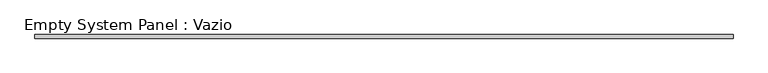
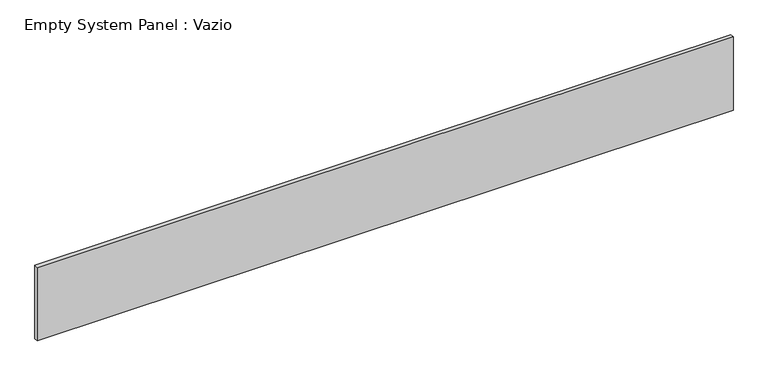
"""IFC4 building model written with IfcOpenShell, lengths in millimetres: plate geometry, Empty System Panel : Vazio."""

from ifc_helpers import new_model, si_unit, origin, origin_with_axes, place, context, project, spatial, polyline, outline, extrude, source, transform, mapped, element, save


def empty_system_panel_vazio_0d2c84fb(model_context):
    return source(origin(), model_context, "Body", "SweptSolid", [
        extrude(outline(polyline([(9575.0, 50.0), (-9575.0, 50.0), (-9575.0, 150.0), (9575.0, 150.0), (9575.0, 50.0)])), origin_with_axes(), (0.0, 0.0, 1.0), 2137.2653886),
    ])


if __name__ == "__main__":
    model = new_model("IFC4")
    model_context = context("Model", 3, world=origin())
    ifc_project = project(units=[si_unit("LENGTHUNIT", "METRE", prefix="MILLI")], contexts=[model_context])
    site = spatial("IfcSite", under=ifc_project)
    building = spatial("IfcBuilding", under=site)
    placement = place(None, origin())
    empty_system_panel_vazio_shape = empty_system_panel_vazio_0d2c84fb(model_context)
    element("IfcPlate", 1, ObjectType="Empty System Panel : Vazio", at=placement, inside=building, context=model_context, shape_type="MappedRepresentation", body=[
        mapped(empty_system_panel_vazio_shape, transform((0.0, 0.0, 0.0), x_axis=(1.0, 0.0, 0.0), y_axis=(0.0, 1.0, 0.0), z_axis=(0.0, 0.0, 1.0))),
    ])
    save(model, "model.ifc")
